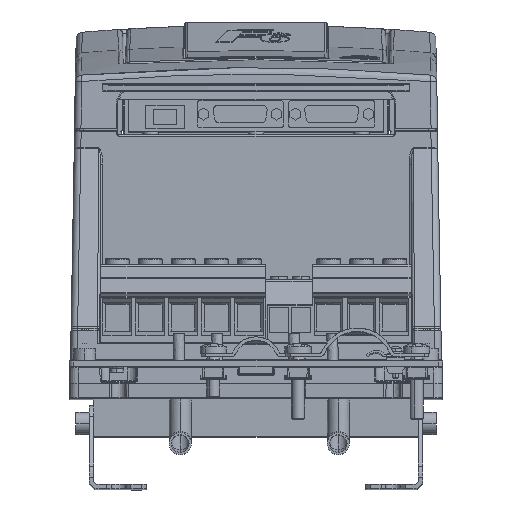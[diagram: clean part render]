
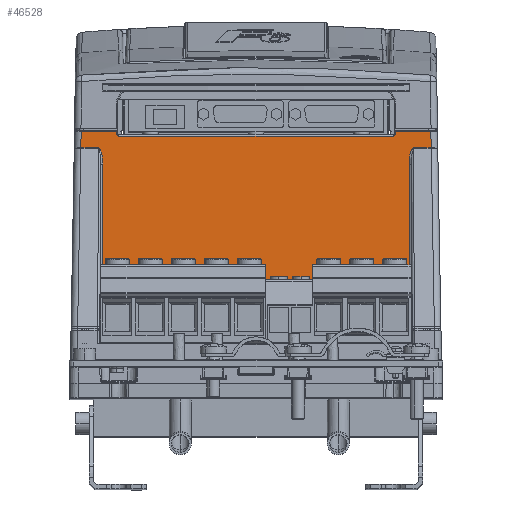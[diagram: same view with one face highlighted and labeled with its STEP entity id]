
A CAD part, top view. The second image highlights one B-rep face of the part: STEP entity #46528.
In plain terms, the highlighted planar face has unit normal (0, 0, 1).
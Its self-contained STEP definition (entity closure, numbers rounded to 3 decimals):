
#247 = VERTEX_POINT ( 'NONE', #115489 ) ;
#329 = CARTESIAN_POINT ( 'NONE',  ( -69.763, 33.786, 124. ) ) ;
#2171 = ORIENTED_EDGE ( 'NONE', *, *, #69347, .F. ) ;
#2279 = VERTEX_POINT ( 'NONE', #53397 ) ;
#2556 = ORIENTED_EDGE ( 'NONE', *, *, #19348, .T. ) ;
#3623 = DIRECTION ( 'NONE',  ( 0., 1., 0. ) ) ;
#3740 = CARTESIAN_POINT ( 'NONE',  ( -70.573, 41.234, 124. ) ) ;
#4204 = LINE ( 'NONE', #56568, #40518 ) ;
#4234 = DIRECTION ( 'NONE',  ( 0., 0., 1. ) ) ;
#5692 = DIRECTION ( 'NONE',  ( -1., 0., 0. ) ) ;
#6055 = DIRECTION ( 'NONE',  ( -1., 0., 0. ) ) ;
#6482 = DIRECTION ( 'NONE',  ( 1., 0., 0. ) ) ;
#6709 = ORIENTED_EDGE ( 'NONE', *, *, #39741, .T. ) ;
#7095 = CARTESIAN_POINT ( 'NONE',  ( 63.5, 47.6, 124. ) ) ;
#9011 = VECTOR ( 'NONE', #24034, 1000. ) ;
#9318 = DIRECTION ( 'NONE',  ( -1., 0., 0. ) ) ;
#10357 = DIRECTION ( 'NONE',  ( 0., 1., 0. ) ) ;
#10818 = VECTOR ( 'NONE', #63486, 1000. ) ;
#11803 = ORIENTED_EDGE ( 'NONE', *, *, #81828, .T. ) ;
#12479 = ORIENTED_EDGE ( 'NONE', *, *, #32396, .F. ) ;
#13502 = VECTOR ( 'NONE', #10357, 1000. ) ;
#15349 = EDGE_CURVE ( 'NONE', #77322, #35840, #84574, .T. ) ;
#15363 = ORIENTED_EDGE ( 'NONE', *, *, #91328, .T. ) ;
#16338 = VECTOR ( 'NONE', #63041, 1000. ) ;
#17387 = CARTESIAN_POINT ( 'NONE',  ( 69.763, 33.786, 124. ) ) ;
#19210 = CARTESIAN_POINT ( 'NONE',  ( 69.763, 89.215, 124. ) ) ;
#19348 = EDGE_CURVE ( 'NONE', #105276, #69366, #99719, .T. ) ;
#20904 = EDGE_CURVE ( 'NONE', #27099, #77322, #73700, .T. ) ;
#21451 = CARTESIAN_POINT ( 'NONE',  ( -71.729, 41.234, 124. ) ) ;
#21479 = VERTEX_POINT ( 'NONE', #26935 ) ;
#24034 = DIRECTION ( 'NONE',  ( 0., -1., 0. ) ) ;
#25343 = CARTESIAN_POINT ( 'NONE',  ( 79.767, 41.234, 124. ) ) ;
#26935 = CARTESIAN_POINT ( 'NONE',  ( -79.765, 41.234, 124. ) ) ;
#27099 = VERTEX_POINT ( 'NONE', #89841 ) ;
#28462 = VERTEX_POINT ( 'NONE', #65533 ) ;
#29097 = CARTESIAN_POINT ( 'NONE',  ( -84.5, 48.6, 124. ) ) ;
#29112 = CARTESIAN_POINT ( 'NONE',  ( -69.763, 38.164, 124. ) ) ;
#30004 = EDGE_CURVE ( 'NONE', #28462, #71652, #59757, .T. ) ;
#30550 = LINE ( 'NONE', #104529, #9011 ) ;
#30558 = EDGE_CURVE ( 'NONE', #102917, #35840, #80171, .T. ) ;
#31390 = ORIENTED_EDGE ( 'NONE', *, *, #30004, .T. ) ;
#32396 = EDGE_CURVE ( 'NONE', #105276, #2279, #85073, .T. ) ;
#33159 = CARTESIAN_POINT ( 'NONE',  ( -84.5, 89.215, 124. ) ) ;
#34349 = LINE ( 'NONE', #61913, #56381 ) ;
#34919 = CARTESIAN_POINT ( 'NONE',  ( 78.857, 92.127, 124. ) ) ;
#35840 = VERTEX_POINT ( 'NONE', #7095 ) ;
#39139 = ORIENTED_EDGE ( 'NONE', *, *, #112713, .T. ) ;
#39150 = VECTOR ( 'NONE', #9318, 1000. ) ;
#39494 = EDGE_LOOP ( 'NONE', ( #12479, #2556, #66924, #6709, #59560, #49267, #113506, #84261, #15363, #2171, #100056, #31390, #69606, #71965, #11803, #39139 ) ) ;
#39741 = EDGE_CURVE ( 'NONE', #247, #82248, #87029, .T. ) ;
#40518 = VECTOR ( 'NONE', #3623, 1000. ) ;
#42151 = EDGE_CURVE ( 'NONE', #21479, #90350, #34349, .T. ) ;
#46528 = ADVANCED_FACE ( 'NONE', ( #79496 ), #60131, .F. ) ;
#47182 = CARTESIAN_POINT ( 'NONE',  ( 69.763, -47.4, 124. ) ) ;
#47621 = VECTOR ( 'NONE', #93121, 1000. ) ;
#48206 = AXIS2_PLACEMENT_3D ( 'NONE', #104750, #4234, #104166 ) ;
#49267 = ORIENTED_EDGE ( 'NONE', *, *, #20904, .T. ) ;
#52557 = DIRECTION ( 'NONE',  ( 1., 0., 0. ) ) ;
#53370 = VECTOR ( 'NONE', #68625, 1000. ) ;
#53397 = CARTESIAN_POINT ( 'NONE',  ( -69.763, -47.4, 124. ) ) ;
#54840 = AXIS2_PLACEMENT_3D ( 'NONE', #60848, #97905, #72576 ) ;
#56381 = VECTOR ( 'NONE', #52557, 1000. ) ;
#56568 = CARTESIAN_POINT ( 'NONE',  ( -63.5, 89.215, 124. ) ) ;
#59560 = ORIENTED_EDGE ( 'NONE', *, *, #104094, .T. ) ;
#59757 = LINE ( 'NONE', #112656, #115663 ) ;
#60131 = PLANE ( 'NONE',  #88088 ) ;
#60431 = CIRCLE ( 'NONE', #54840, 1. ) ;
#60848 = CARTESIAN_POINT ( 'NONE',  ( -62.5, 47.6, 124. ) ) ;
#61633 = CARTESIAN_POINT ( 'NONE',  ( 49.191, 46.6, 124. ) ) ;
#61913 = CARTESIAN_POINT ( 'NONE',  ( -71.729, 41.234, 124. ) ) ;
#63041 = DIRECTION ( 'NONE',  ( -0.018, 1., 0. ) ) ;
#63486 = DIRECTION ( 'NONE',  ( -0.018, -1., 0. ) ) ;
#64604 = CARTESIAN_POINT ( 'NONE',  ( 62.5, 46.6, 124. ) ) ;
#65453 = CARTESIAN_POINT ( 'NONE',  ( -69.763, 33.786, 124. ) ) ;
#65533 = CARTESIAN_POINT ( 'NONE',  ( -63.5, 48.6, 124. ) ) ;
#66924 = ORIENTED_EDGE ( 'NONE', *, *, #91957, .T. ) ;
#67850 = CARTESIAN_POINT ( 'NONE',  ( 69.763, 33.786, 124. ) ) ;
#68625 = DIRECTION ( 'NONE',  ( 0., -1., 0. ) ) ;
#69347 = EDGE_CURVE ( 'NONE', #87138, #106416, #60431, .T. ) ;
#69366 = VERTEX_POINT ( 'NONE', #17387 ) ;
#69606 = ORIENTED_EDGE ( 'NONE', *, *, #90886, .T. ) ;
#70723 =( BOUNDED_CURVE ( )  B_SPLINE_CURVE ( 3, ( #67850, #77268, #113098, #86666 ),
 .UNSPECIFIED., .F., .T. ) 
 B_SPLINE_CURVE_WITH_KNOTS ( ( 4, 4 ),
 ( 4.73, 6.284 ),
 .UNSPECIFIED. ) 
 CURVE ( )  GEOMETRIC_REPRESENTATION_ITEM ( )  RATIONAL_B_SPLINE_CURVE ( ( 1., 0.809, 0.809, 1. ) ) 
 REPRESENTATION_ITEM ( '' )  );
#71652 = VERTEX_POINT ( 'NONE', #74371 ) ;
#71965 = ORIENTED_EDGE ( 'NONE', *, *, #42151, .T. ) ;
#72576 = DIRECTION ( 'NONE',  ( -1., 0., 0. ) ) ;
#73700 = LINE ( 'NONE', #29097, #47621 ) ;
#74371 = CARTESIAN_POINT ( 'NONE',  ( -79.633, 48.6, 124. ) ) ;
#75942 = CARTESIAN_POINT ( 'NONE',  ( -62.5, 46.6, 124. ) ) ;
#76818 = DIRECTION ( 'NONE',  ( -1., 0., 0. ) ) ;
#77268 = CARTESIAN_POINT ( 'NONE',  ( 69.763, 38.164, 124. ) ) ;
#77322 = VERTEX_POINT ( 'NONE', #110406 ) ;
#78960 = LINE ( 'NONE', #34919, #16338 ) ;
#79096 = VERTEX_POINT ( 'NONE', #329 ) ;
#79496 = FACE_OUTER_BOUND ( 'NONE', #39494, .T. ) ;
#80171 = CIRCLE ( 'NONE', #48206, 1. ) ;
#81828 = EDGE_CURVE ( 'NONE', #90350, #79096, #87917, .T. ) ;
#82248 = VERTEX_POINT ( 'NONE', #104106 ) ;
#82328 = LINE ( 'NONE', #91145, #10818 ) ;
#82355 = VECTOR ( 'NONE', #5692, 1000. ) ;
#84261 = ORIENTED_EDGE ( 'NONE', *, *, #30558, .F. ) ;
#84574 = LINE ( 'NONE', #112148, #53370 ) ;
#85073 = LINE ( 'NONE', #102709, #82355 ) ;
#86666 = CARTESIAN_POINT ( 'NONE',  ( 71.729, 41.234, 124. ) ) ;
#87029 = LINE ( 'NONE', #25343, #108756 ) ;
#87138 = VERTEX_POINT ( 'NONE', #99117 ) ;
#87917 =( BOUNDED_CURVE ( )  B_SPLINE_CURVE ( 3, ( #21451, #3740, #29112, #65453 ),
 .UNSPECIFIED., .F., .T. ) 
 B_SPLINE_CURVE_WITH_KNOTS ( ( 4, 4 ),
 ( 6.282, 7.836 ),
 .UNSPECIFIED. ) 
 CURVE ( )  GEOMETRIC_REPRESENTATION_ITEM ( )  RATIONAL_B_SPLINE_CURVE ( ( 1., 0.809, 0.809, 1. ) ) 
 REPRESENTATION_ITEM ( '' )  );
#88088 = AXIS2_PLACEMENT_3D ( 'NONE', #33159, #105410, #6055 ) ;
#89403 = CARTESIAN_POINT ( 'NONE',  ( -71.729, 41.234, 124. ) ) ;
#89841 = CARTESIAN_POINT ( 'NONE',  ( 79.633, 48.6, 124. ) ) ;
#90350 = VERTEX_POINT ( 'NONE', #89403 ) ;
#90886 = EDGE_CURVE ( 'NONE', #71652, #21479, #82328, .T. ) ;
#91145 = CARTESIAN_POINT ( 'NONE',  ( -78.911, 89.115, 124. ) ) ;
#91328 = EDGE_CURVE ( 'NONE', #102917, #106416, #99818, .T. ) ;
#91957 = EDGE_CURVE ( 'NONE', #69366, #247, #70723, .T. ) ;
#93121 = DIRECTION ( 'NONE',  ( -1., 0., 0. ) ) ;
#97905 = DIRECTION ( 'NONE',  ( 0., 0., 1. ) ) ;
#99117 = CARTESIAN_POINT ( 'NONE',  ( -63.5, 47.6, 124. ) ) ;
#99719 = LINE ( 'NONE', #19210, #13502 ) ;
#99818 = LINE ( 'NONE', #61633, #39150 ) ;
#100056 = ORIENTED_EDGE ( 'NONE', *, *, #101337, .T. ) ;
#101337 = EDGE_CURVE ( 'NONE', #87138, #28462, #4204, .T. ) ;
#102709 = CARTESIAN_POINT ( 'NONE',  ( -84.5, -47.4, 124. ) ) ;
#102917 = VERTEX_POINT ( 'NONE', #64604 ) ;
#104094 = EDGE_CURVE ( 'NONE', #82248, #27099, #78960, .T. ) ;
#104106 = CARTESIAN_POINT ( 'NONE',  ( 79.765, 41.234, 124. ) ) ;
#104166 = DIRECTION ( 'NONE',  ( -1., 0., 0. ) ) ;
#104529 = CARTESIAN_POINT ( 'NONE',  ( -69.763, 89.215, 124. ) ) ;
#104750 = CARTESIAN_POINT ( 'NONE',  ( 62.5, 47.6, 124. ) ) ;
#105276 = VERTEX_POINT ( 'NONE', #47182 ) ;
#105410 = DIRECTION ( 'NONE',  ( 0., 0., -1. ) ) ;
#106416 = VERTEX_POINT ( 'NONE', #75942 ) ;
#108756 = VECTOR ( 'NONE', #6482, 1000. ) ;
#110406 = CARTESIAN_POINT ( 'NONE',  ( 63.5, 48.6, 124. ) ) ;
#112148 = CARTESIAN_POINT ( 'NONE',  ( 63.5, 89.215, 124. ) ) ;
#112656 = CARTESIAN_POINT ( 'NONE',  ( -84.5, 48.6, 124. ) ) ;
#112713 = EDGE_CURVE ( 'NONE', #79096, #2279, #30550, .T. ) ;
#113098 = CARTESIAN_POINT ( 'NONE',  ( 70.573, 41.234, 124. ) ) ;
#113506 = ORIENTED_EDGE ( 'NONE', *, *, #15349, .T. ) ;
#115489 = CARTESIAN_POINT ( 'NONE',  ( 71.729, 41.234, 124. ) ) ;
#115663 = VECTOR ( 'NONE', #76818, 1000. ) ;
